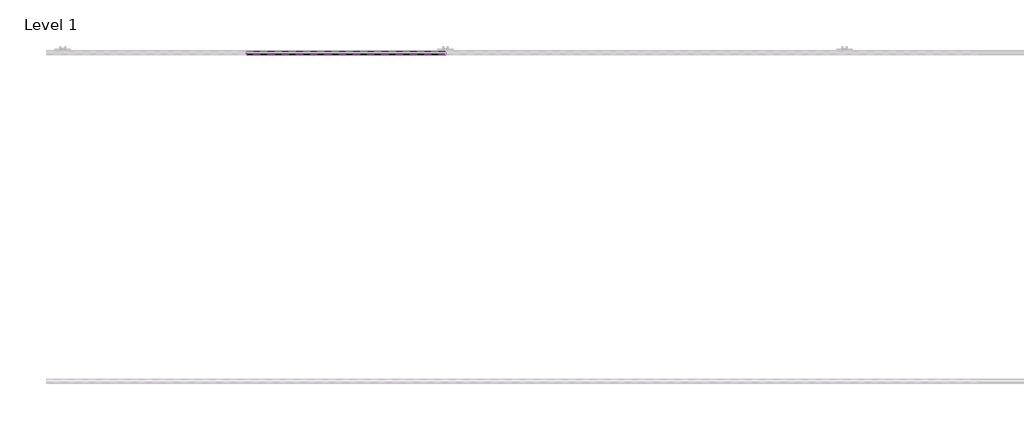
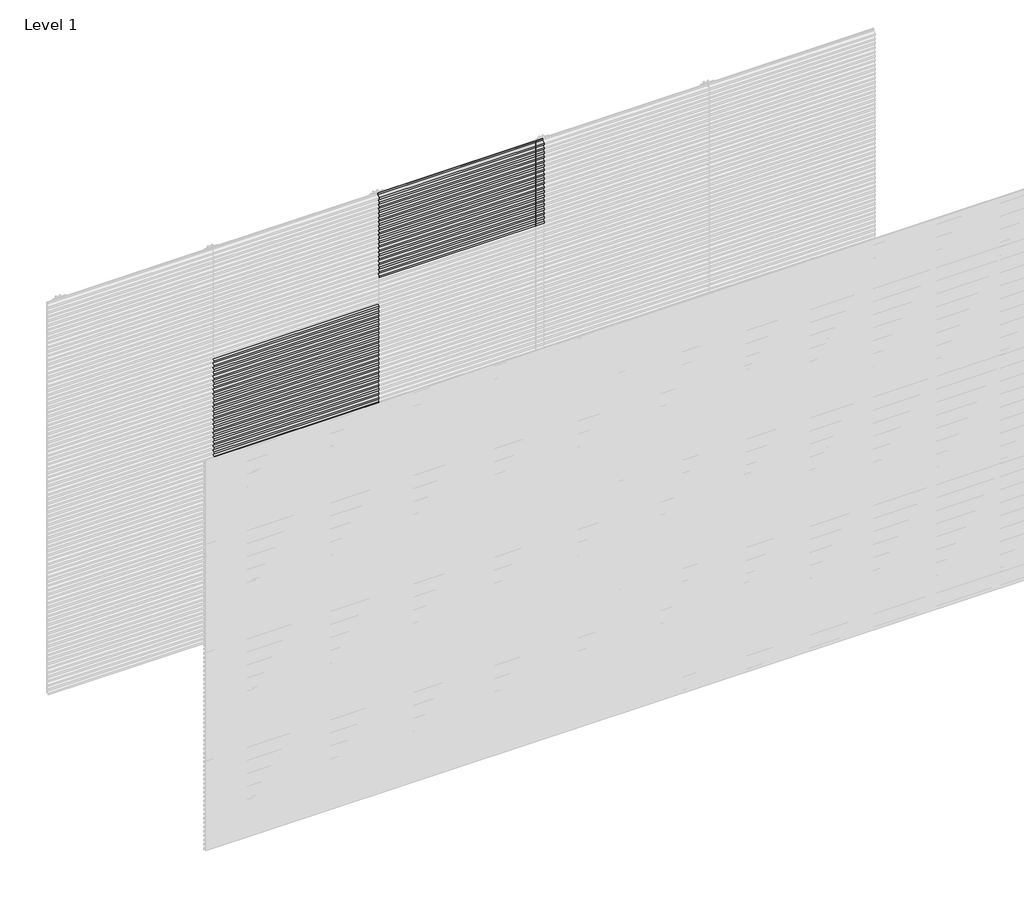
# One storey, part 14 of 507: 84 proxies.
"""IFC4 building model written with IfcOpenShell, lengths in millimetres."""

from ifc_helpers import new_model, si_unit, frame, origin, place, context, project, spatial, polyline, outline, extrude, element, save

model = new_model("IFC4")

# Units and contexts
model_context = context("Model", 3, world=origin())
ifc_project = project(units=[si_unit("LENGTHUNIT", "METRE", prefix="MILLI")], contexts=[model_context])

# Site, building, storey
site = spatial("IfcSite", under=ifc_project)
building = spatial("IfcBuilding", under=site)
storey = spatial("IfcBuildingStorey", under=building, Name="Level 1", Elevation=0.0)

# Proxies
placement = place(None, origin())
element("IfcBuildingElementProxy", 1, Name="Wall Sweeps", at=placement, inside=storey, context=model_context, shape_type="SweptSolid", body=[
    extrude(outline(polyline([(6962.6270068, 2140.5), (6981.7770068, 2151.5562577), (6981.7770068, 2164.5), (6983.0270068, 2164.5), (6983.0270068, 2150.8345698), (6963.8770068, 2139.7782281), (6963.8770068, 2127.7216933), (6962.6270068, 2127.0), (6962.6270068, 2140.5)])), frame((46166.6208099, 0.0, 0.0), z_axis=(1.0, 0.0, 0.0), x_axis=(0.0, 1.0, 0.0)), (0.0, 0.0, 1.0), 1199.9999999),
])
element("IfcBuildingElementProxy", 2, Name="Wall Sweeps", at=placement, inside=storey, context=model_context, shape_type="SweptSolid", body=[
    extrude(outline(polyline([(6962.6270068, 2107.2), (6981.7770068, 2118.2562577), (6981.7770068, 2131.2), (6983.0270068, 2131.2), (6983.0270068, 2117.5345698), (6963.8770068, 2106.4782281), (6963.8770068, 2094.4216933), (6962.6270068, 2093.7), (6962.6270068, 2107.2)])), frame((46166.6208099, 0.0, 0.0), z_axis=(1.0, 0.0, 0.0), x_axis=(0.0, 1.0, 0.0)), (0.0, 0.0, 1.0), 1199.9999999),
])
element("IfcBuildingElementProxy", 3, Name="Wall Sweeps", at=placement, inside=storey, context=model_context, shape_type="SweptSolid", body=[
    extrude(outline(polyline([(6962.6270068, 2073.9), (6981.7770068, 2084.9562577), (6981.7770068, 2097.9), (6983.0270068, 2097.9), (6983.0270068, 2084.2345698), (6963.8770068, 2073.1782281), (6963.8770068, 2061.1216933), (6962.6270068, 2060.4), (6962.6270068, 2073.9)])), frame((46166.6208099, 0.0, 0.0), z_axis=(1.0, 0.0, 0.0), x_axis=(0.0, 1.0, 0.0)), (0.0, 0.0, 1.0), 1199.9999999),
])
element("IfcBuildingElementProxy", 4, Name="Wall Sweeps", at=placement, inside=storey, context=model_context, shape_type="SweptSolid", body=[
    extrude(outline(polyline([(6962.6270068, 2040.6), (6981.7770068, 2051.6562577), (6981.7770068, 2064.6), (6983.0270068, 2064.6), (6983.0270068, 2050.9345698), (6963.8770068, 2039.8782281), (6963.8770068, 2027.8216933), (6962.6270068, 2027.1), (6962.6270068, 2040.6)])), frame((46166.6208099, 0.0, 0.0), z_axis=(1.0, 0.0, 0.0), x_axis=(0.0, 1.0, 0.0)), (0.0, 0.0, 1.0), 1199.9999999),
])
element("IfcBuildingElementProxy", 5, Name="Wall Sweeps", at=placement, inside=storey, context=model_context, shape_type="SweptSolid", body=[
    extrude(outline(polyline([(6962.6270068, 2007.3), (6981.7770068, 2018.3562577), (6981.7770068, 2031.3), (6983.0270068, 2031.3), (6983.0270068, 2017.6345698), (6963.8770068, 2006.5782281), (6963.8770068, 1994.5216933), (6962.6270068, 1993.8), (6962.6270068, 2007.3)])), frame((46166.6208099, 0.0, 0.0), z_axis=(1.0, 0.0, 0.0), x_axis=(0.0, 1.0, 0.0)), (0.0, 0.0, 1.0), 1199.9999999),
])
element("IfcBuildingElementProxy", 6, Name="Wall Sweeps", at=placement, inside=storey, context=model_context, shape_type="SweptSolid", body=[
    extrude(outline(polyline([(6962.6270068, 1974.0), (6981.7770068, 1985.0562577), (6981.7770068, 1998.0), (6983.0270068, 1998.0), (6983.0270068, 1984.3345698), (6963.8770068, 1973.2782281), (6963.8770068, 1961.2216933), (6962.6270068, 1960.5), (6962.6270068, 1974.0)])), frame((46166.6208099, 0.0, 0.0), z_axis=(1.0, 0.0, 0.0), x_axis=(0.0, 1.0, 0.0)), (0.0, 0.0, 1.0), 1199.9999999),
])
element("IfcBuildingElementProxy", 7, Name="Wall Sweeps", at=placement, inside=storey, context=model_context, shape_type="SweptSolid", body=[
    extrude(outline(polyline([(6962.6270068, 1940.7), (6981.7770068, 1951.7562577), (6981.7770068, 1964.7), (6983.0270068, 1964.7), (6983.0270068, 1951.0345698), (6963.8770068, 1939.9782281), (6963.8770068, 1927.9216933), (6962.6270068, 1927.2), (6962.6270068, 1940.7)])), frame((46166.6208099, 0.0, 0.0), z_axis=(1.0, 0.0, 0.0), x_axis=(0.0, 1.0, 0.0)), (0.0, 0.0, 1.0), 1199.9999999),
])
element("IfcBuildingElementProxy", 8, Name="Wall Sweeps", at=placement, inside=storey, context=model_context, shape_type="SweptSolid", body=[
    extrude(outline(polyline([(6962.6270068, 1907.4), (6981.7770068, 1918.4562577), (6981.7770068, 1931.4), (6983.0270068, 1931.4), (6983.0270068, 1917.7345698), (6963.8770068, 1906.6782281), (6963.8770068, 1894.6216933), (6962.6270068, 1893.9), (6962.6270068, 1907.4)])), frame((46166.6208099, 0.0, 0.0), z_axis=(1.0, 0.0, 0.0), x_axis=(0.0, 1.0, 0.0)), (0.0, 0.0, 1.0), 1199.9999999),
])
element("IfcBuildingElementProxy", 9, Name="Wall Sweeps", at=placement, inside=storey, context=model_context, shape_type="SweptSolid", body=[
    extrude(outline(polyline([(6962.6270068, 1874.1), (6981.7770068, 1885.1562577), (6981.7770068, 1898.1), (6983.0270068, 1898.1), (6983.0270068, 1884.4345698), (6963.8770068, 1873.3782281), (6963.8770068, 1861.3216933), (6962.6270068, 1860.6), (6962.6270068, 1874.1)])), frame((46166.6208099, 0.0, 0.0), z_axis=(1.0, 0.0, 0.0), x_axis=(0.0, 1.0, 0.0)), (0.0, 0.0, 1.0), 1199.9999999),
])
element("IfcBuildingElementProxy", 10, Name="Wall Sweeps", at=placement, inside=storey, context=model_context, shape_type="SweptSolid", body=[
    extrude(outline(polyline([(6962.6270068, 1840.8), (6981.7770068, 1851.8562577), (6981.7770068, 1864.8), (6983.0270068, 1864.8), (6983.0270068, 1851.1345698), (6963.8770068, 1840.0782281), (6963.8770068, 1828.0216933), (6962.6270068, 1827.3), (6962.6270068, 1840.8)])), frame((46166.6208099, 0.0, 0.0), z_axis=(1.0, 0.0, 0.0), x_axis=(0.0, 1.0, 0.0)), (0.0, 0.0, 1.0), 1199.9999999),
])
element("IfcBuildingElementProxy", 11, Name="Wall Sweeps", at=placement, inside=storey, context=model_context, shape_type="SweptSolid", body=[
    extrude(outline(polyline([(6962.6270068, 1807.5), (6981.7770068, 1818.5562577), (6981.7770068, 1831.5), (6983.0270068, 1831.5), (6983.0270068, 1817.8345698), (6963.8770068, 1806.7782281), (6963.8770068, 1794.7216933), (6962.6270068, 1794.0), (6962.6270068, 1807.5)])), frame((46166.6208099, 0.0, 0.0), z_axis=(1.0, 0.0, 0.0), x_axis=(0.0, 1.0, 0.0)), (0.0, 0.0, 1.0), 1199.9999999),
])
element("IfcBuildingElementProxy", 12, Name="Wall Sweeps", at=placement, inside=storey, context=model_context, shape_type="SweptSolid", body=[
    extrude(outline(polyline([(6962.6270068, 1774.2), (6981.7770068, 1785.2562577), (6981.7770068, 1798.2), (6983.0270068, 1798.2), (6983.0270068, 1784.5345698), (6963.8770068, 1773.4782281), (6963.8770068, 1761.4216933), (6962.6270068, 1760.7), (6962.6270068, 1774.2)])), frame((46166.6208099, 0.0, 0.0), z_axis=(1.0, 0.0, 0.0), x_axis=(0.0, 1.0, 0.0)), (0.0, 0.0, 1.0), 1199.9999999),
])
element("IfcBuildingElementProxy", 13, Name="Wall Sweeps", at=placement, inside=storey, context=model_context, shape_type="SweptSolid", body=[
    extrude(outline(polyline([(6962.6270068, 1740.9), (6981.7770068, 1751.9562577), (6981.7770068, 1764.9), (6983.0270068, 1764.9), (6983.0270068, 1751.2345698), (6963.8770068, 1740.1782281), (6963.8770068, 1728.1216933), (6962.6270068, 1727.4), (6962.6270068, 1740.9)])), frame((46166.6208099, 0.0, 0.0), z_axis=(1.0, 0.0, 0.0), x_axis=(0.0, 1.0, 0.0)), (0.0, 0.0, 1.0), 1199.9999999),
])
element("IfcBuildingElementProxy", 14, Name="Wall Sweeps", at=placement, inside=storey, context=model_context, shape_type="SweptSolid", body=[
    extrude(outline(polyline([(6962.6270068, 1707.6), (6981.7770068, 1718.6562577), (6981.7770068, 1731.6), (6983.0270068, 1731.6), (6983.0270068, 1717.9345698), (6963.8770068, 1706.8782281), (6963.8770068, 1694.8216933), (6962.6270068, 1694.1), (6962.6270068, 1707.6)])), frame((46166.6208099, 0.0, 0.0), z_axis=(1.0, 0.0, 0.0), x_axis=(0.0, 1.0, 0.0)), (0.0, 0.0, 1.0), 1199.9999999),
])
element("IfcBuildingElementProxy", 15, Name="Wall Sweeps", at=placement, inside=storey, context=model_context, shape_type="SweptSolid", body=[
    extrude(outline(polyline([(6962.6270068, 1674.3), (6981.7770068, 1685.3562577), (6981.7770068, 1698.3), (6983.0270068, 1698.3), (6983.0270068, 1684.6345698), (6963.8770068, 1673.5782281), (6963.8770068, 1661.5216933), (6962.6270068, 1660.8), (6962.6270068, 1674.3)])), frame((46166.6208099, 0.0, 0.0), z_axis=(1.0, 0.0, 0.0), x_axis=(0.0, 1.0, 0.0)), (0.0, 0.0, 1.0), 1199.9999999),
])
element("IfcBuildingElementProxy", 16, Name="Wall Sweeps", at=placement, inside=storey, context=model_context, shape_type="SweptSolid", body=[
    extrude(outline(polyline([(6962.6270068, 1641.0), (6981.7770068, 1652.0562577), (6981.7770068, 1665.0), (6983.0270068, 1665.0), (6983.0270068, 1651.3345698), (6963.8770068, 1640.2782281), (6963.8770068, 1628.2216933), (6962.6270068, 1627.5), (6962.6270068, 1641.0)])), frame((46166.6208099, 0.0, 0.0), z_axis=(1.0, 0.0, 0.0), x_axis=(0.0, 1.0, 0.0)), (0.0, 0.0, 1.0), 1199.9999999),
])
element("IfcBuildingElementProxy", 17, Name="Wall Sweeps", at=placement, inside=storey, context=model_context, shape_type="SweptSolid", body=[
    extrude(outline(polyline([(6962.6270068, 1607.7), (6981.7770068, 1618.7562577), (6981.7770068, 1631.7), (6983.0270068, 1631.7), (6983.0270068, 1618.0345698), (6963.8770068, 1606.9782281), (6963.8770068, 1594.9216933), (6962.6270068, 1594.2), (6962.6270068, 1607.7)])), frame((46166.6208099, 0.0, 0.0), z_axis=(1.0, 0.0, 0.0), x_axis=(0.0, 1.0, 0.0)), (0.0, 0.0, 1.0), 1199.9999999),
])
element("IfcBuildingElementProxy", 18, Name="Wall Sweeps", at=placement, inside=storey, context=model_context, shape_type="SweptSolid", body=[
    extrude(outline(polyline([(6962.6270068, 1574.4), (6981.7770068, 1585.4562577), (6981.7770068, 1598.4), (6983.0270068, 1598.4), (6983.0270068, 1584.7345698), (6963.8770068, 1573.6782281), (6963.8770068, 1561.6216933), (6962.6270068, 1560.9), (6962.6270068, 1574.4)])), frame((46166.6208099, 0.0, 0.0), z_axis=(1.0, 0.0, 0.0), x_axis=(0.0, 1.0, 0.0)), (0.0, 0.0, 1.0), 1199.9999999),
])
element("IfcBuildingElementProxy", 19, Name="Wall Sweeps", at=placement, inside=storey, context=model_context, shape_type="SweptSolid", body=[
    extrude(outline(polyline([(6962.6270068, 1541.1), (6981.7770068, 1552.1562577), (6981.7770068, 1565.1), (6983.0270068, 1565.1), (6983.0270068, 1551.4345698), (6963.8770068, 1540.3782281), (6963.8770068, 1528.3216933), (6962.6270068, 1527.6), (6962.6270068, 1541.1)])), frame((46166.6208099, 0.0, 0.0), z_axis=(1.0, 0.0, 0.0), x_axis=(0.0, 1.0, 0.0)), (0.0, 0.0, 1.0), 1199.9999999),
])
element("IfcBuildingElementProxy", 20, Name="Wall Sweeps", at=placement, inside=storey, context=model_context, shape_type="SweptSolid", body=[
    extrude(outline(polyline([(6962.6270068, 1507.8), (6981.7770068, 1518.8562577), (6981.7770068, 1531.8), (6983.0270068, 1531.8), (6983.0270068, 1518.1345698), (6963.8770068, 1507.0782281), (6963.8770068, 1495.0216933), (6962.6270068, 1494.3), (6962.6270068, 1507.8)])), frame((46166.6208099, 0.0, 0.0), z_axis=(1.0, 0.0, 0.0), x_axis=(0.0, 1.0, 0.0)), (0.0, 0.0, 1.0), 1199.9999999),
])
element("IfcBuildingElementProxy", 21, Name="Wall Sweeps", at=placement, inside=storey, context=model_context, shape_type="SweptSolid", body=[
    extrude(outline(polyline([(6962.6270068, 1474.5), (6981.7770068, 1485.5562577), (6981.7770068, 1498.5), (6983.0270068, 1498.5), (6983.0270068, 1484.8345698), (6963.8770068, 1473.7782281), (6963.8770068, 1461.7216933), (6962.6270068, 1461.0), (6962.6270068, 1474.5)])), frame((46166.6208099, 0.0, 0.0), z_axis=(1.0, 0.0, 0.0), x_axis=(0.0, 1.0, 0.0)), (0.0, 0.0, 1.0), 1199.9999999),
])
element("IfcBuildingElementProxy", 22, Name="Wall Sweeps", at=placement, inside=storey, context=model_context, shape_type="SweptSolid", body=[
    extrude(outline(polyline([(6962.6270068, 1441.2), (6981.7770068, 1452.2562577), (6981.7770068, 1465.2), (6983.0270068, 1465.2), (6983.0270068, 1451.5345698), (6963.8770068, 1440.4782281), (6963.8770068, 1428.4216933), (6962.6270068, 1427.7), (6962.6270068, 1441.2)])), frame((46166.6208099, 0.0, 0.0), z_axis=(1.0, 0.0, 0.0), x_axis=(0.0, 1.0, 0.0)), (0.0, 0.0, 1.0), 1199.9999999),
])
element("IfcBuildingElementProxy", 23, Name="Wall Sweeps", at=placement, inside=storey, context=model_context, shape_type="SweptSolid", body=[
    extrude(outline(polyline([(6962.6270068, 1407.9), (6981.7770068, 1418.9562577), (6981.7770068, 1431.9), (6983.0270068, 1431.9), (6983.0270068, 1418.2345698), (6963.8770068, 1407.1782281), (6963.8770068, 1395.1216933), (6962.6270068, 1394.4), (6962.6270068, 1407.9)])), frame((46166.6208099, 0.0, 0.0), z_axis=(1.0, 0.0, 0.0), x_axis=(0.0, 1.0, 0.0)), (0.0, 0.0, 1.0), 1199.9999999),
])
element("IfcBuildingElementProxy", 24, Name="Wall Sweeps", at=placement, inside=storey, context=model_context, shape_type="SweptSolid", body=[
    extrude(outline(polyline([(6962.6270068, 1374.6), (6981.7770068, 1385.6562577), (6981.7770068, 1398.6), (6983.0270068, 1398.6), (6983.0270068, 1384.9345698), (6963.8770068, 1373.8782281), (6963.8770068, 1361.8216933), (6962.6270068, 1361.1), (6962.6270068, 1374.6)])), frame((46166.6208099, 0.0, 0.0), z_axis=(1.0, 0.0, 0.0), x_axis=(0.0, 1.0, 0.0)), (0.0, 0.0, 1.0), 1199.9999999),
])
element("IfcBuildingElementProxy", 25, Name="Wall Sweeps", at=placement, inside=storey, context=model_context, shape_type="SweptSolid", body=[
    extrude(outline(polyline([(6962.6270068, 1341.3), (6981.7770068, 1352.3562577), (6981.7770068, 1365.3), (6983.0270068, 1365.3), (6983.0270068, 1351.6345698), (6963.8770068, 1340.5782281), (6963.8770068, 1328.5216933), (6962.6270068, 1327.8), (6962.6270068, 1341.3)])), frame((46166.6208099, 0.0, 0.0), z_axis=(1.0, 0.0, 0.0), x_axis=(0.0, 1.0, 0.0)), (0.0, 0.0, 1.0), 1199.9999999),
])
element("IfcBuildingElementProxy", 26, Name="Wall Sweeps", at=placement, inside=storey, context=model_context, shape_type="SweptSolid", body=[
    extrude(outline(polyline([(6962.6270068, 1308.0), (6981.7770068, 1319.0562577), (6981.7770068, 1332.0), (6983.0270068, 1332.0), (6983.0270068, 1318.3345698), (6963.8770068, 1307.2782281), (6963.8770068, 1295.2216933), (6962.6270068, 1294.5), (6962.6270068, 1308.0)])), frame((46166.6208099, 0.0, 0.0), z_axis=(1.0, 0.0, 0.0), x_axis=(0.0, 1.0, 0.0)), (0.0, 0.0, 1.0), 1199.9999999),
])
element("IfcBuildingElementProxy", 27, Name="Wall Sweeps", at=placement, inside=storey, context=model_context, shape_type="SweptSolid", body=[
    extrude(outline(polyline([(6962.6270068, 1274.7), (6981.7770068, 1285.7562577), (6981.7770068, 1298.7), (6983.0270068, 1298.7), (6983.0270068, 1285.0345698), (6963.8770068, 1273.9782281), (6963.8770068, 1261.9216933), (6962.6270068, 1261.2), (6962.6270068, 1274.7)])), frame((46166.6208099, 0.0, 0.0), z_axis=(1.0, 0.0, 0.0), x_axis=(0.0, 1.0, 0.0)), (0.0, 0.0, 1.0), 1199.9999999),
])
element("IfcBuildingElementProxy", 28, Name="Wall Sweeps", at=placement, inside=storey, context=model_context, shape_type="SweptSolid", body=[
    extrude(outline(polyline([(6962.6270068, 1241.4), (6981.7770068, 1252.4562577), (6981.7770068, 1265.4), (6983.0270068, 1265.4), (6983.0270068, 1251.7345698), (6963.8770068, 1240.6782281), (6963.8770068, 1228.6216933), (6962.6270068, 1227.9), (6962.6270068, 1241.4)])), frame((46166.6208099, 0.0, 0.0), z_axis=(1.0, 0.0, 0.0), x_axis=(0.0, 1.0, 0.0)), (0.0, 0.0, 1.0), 1199.9999999),
])
element("IfcBuildingElementProxy", 29, Name="Wall Sweeps", at=placement, inside=storey, context=model_context, shape_type="SweptSolid", body=[
    extrude(outline(polyline([(6962.6270068, 1208.1), (6981.7770068, 1219.1562577), (6981.7770068, 1232.1), (6983.0270068, 1232.1), (6983.0270068, 1218.4345698), (6963.8770068, 1207.3782281), (6963.8770068, 1195.3216933), (6962.6270068, 1194.6), (6962.6270068, 1208.1)])), frame((46166.6208099, 0.0, 0.0), z_axis=(1.0, 0.0, 0.0), x_axis=(0.0, 1.0, 0.0)), (0.0, 0.0, 1.0), 1199.9999999),
])
element("IfcBuildingElementProxy", 30, Name="Wall Sweeps", at=placement, inside=storey, context=model_context, shape_type="SweptSolid", body=[
    extrude(outline(polyline([(6962.6270068, 1174.8), (6981.7770068, 1185.8562577), (6981.7770068, 1198.8), (6983.0270068, 1198.8), (6983.0270068, 1185.1345698), (6963.8770068, 1174.0782281), (6963.8770068, 1162.0216933), (6962.6270068, 1161.3), (6962.6270068, 1174.8)])), frame((46166.6208099, 0.0, 0.0), z_axis=(1.0, 0.0, 0.0), x_axis=(0.0, 1.0, 0.0)), (0.0, 0.0, 1.0), 1199.9999999),
])
element("IfcBuildingElementProxy", 31, Name="Wall Sweeps", at=placement, inside=storey, context=model_context, shape_type="SweptSolid", body=[
    extrude(outline(polyline([(6962.6270068, 1141.5), (6981.7770068, 1152.5562577), (6981.7770068, 1165.5), (6983.0270068, 1165.5), (6983.0270068, 1151.8345698), (6963.8770068, 1140.7782281), (6963.8770068, 1128.7216933), (6962.6270068, 1128.0), (6962.6270068, 1141.5)])), frame((46166.6208099, 0.0, 0.0), z_axis=(1.0, 0.0, 0.0), x_axis=(0.0, 1.0, 0.0)), (0.0, 0.0, 1.0), 1199.9999999),
])
element("IfcBuildingElementProxy", 32, Name="Wall Sweeps", at=placement, inside=storey, context=model_context, shape_type="SweptSolid", body=[
    extrude(outline(polyline([(6962.6270068, 1108.2), (6981.7770068, 1119.2562577), (6981.7770068, 1132.2), (6983.0270068, 1132.2), (6983.0270068, 1118.5345698), (6963.8770068, 1107.4782281), (6963.8770068, 1095.4216933), (6962.6270068, 1094.7), (6962.6270068, 1108.2)])), frame((46166.6208099, 0.0, 0.0), z_axis=(1.0, 0.0, 0.0), x_axis=(0.0, 1.0, 0.0)), (0.0, 0.0, 1.0), 1199.9999999),
])
element("IfcBuildingElementProxy", 33, Name="Wall Sweeps", at=placement, inside=storey, context=model_context, shape_type="SweptSolid", body=[
    extrude(outline(polyline([(6962.6270068, 1074.9), (6981.7770068, 1085.9562577), (6981.7770068, 1098.9), (6983.0270068, 1098.9), (6983.0270068, 1085.2345698), (6963.8770068, 1074.1782281), (6963.8770068, 1062.1216933), (6962.6270068, 1061.4), (6962.6270068, 1074.9)])), frame((46166.6208099, 0.0, 0.0), z_axis=(1.0, 0.0, 0.0), x_axis=(0.0, 1.0, 0.0)), (0.0, 0.0, 1.0), 1199.9999999),
])
element("IfcBuildingElementProxy", 34, Name="Wall Sweeps", at=placement, inside=storey, context=model_context, shape_type="SweptSolid", body=[
    extrude(outline(polyline([(6962.6270068, 1041.6), (6981.7770068, 1052.6562577), (6981.7770068, 1065.6), (6983.0270068, 1065.6), (6983.0270068, 1051.9345698), (6963.8770068, 1040.8782281), (6963.8770068, 1028.8216933), (6962.6270068, 1028.1), (6962.6270068, 1041.6)])), frame((46166.6208099, 0.0, 0.0), z_axis=(1.0, 0.0, 0.0), x_axis=(0.0, 1.0, 0.0)), (0.0, 0.0, 1.0), 1199.9999999),
])
element("IfcBuildingElementProxy", 35, Name="Wall Sweeps", at=placement, inside=storey, context=model_context, shape_type="SweptSolid", body=[
    extrude(outline(polyline([(6962.6270068, 1008.3), (6981.7770068, 1019.3562577), (6981.7770068, 1032.3), (6983.0270068, 1032.3), (6983.0270068, 1018.6345698), (6963.8770068, 1007.5782281), (6963.8770068, 995.5216933), (6962.6270068, 994.8), (6962.6270068, 1008.3)])), frame((46166.6208099, 0.0, 0.0), z_axis=(1.0, 0.0, 0.0), x_axis=(0.0, 1.0, 0.0)), (0.0, 0.0, 1.0), 1199.9999999),
])
element("IfcBuildingElementProxy", 36, Name="Wall Sweeps", at=placement, inside=storey, context=model_context, shape_type="SweptSolid", body=[
    extrude(outline(polyline([(6962.6270068, 975.0), (6981.7770068, 986.0562577), (6981.7770068, 999.0), (6983.0270068, 999.0), (6983.0270068, 985.3345698), (6963.8770068, 974.2782281), (6963.8770068, 962.2216933), (6962.6270068, 961.5), (6962.6270068, 975.0)])), frame((46166.6208099, 0.0, 0.0), z_axis=(1.0, 0.0, 0.0), x_axis=(0.0, 1.0, 0.0)), (0.0, 0.0, 1.0), 1199.9999999),
])
element("IfcBuildingElementProxy", 37, Name="Wall Sweeps", at=placement, inside=storey, context=model_context, shape_type="SweptSolid", body=[
    extrude(outline(polyline([(6962.6270068, 941.7), (6981.7770068, 952.7562577), (6981.7770068, 965.7), (6983.0270068, 965.7), (6983.0270068, 952.0345698), (6963.8770068, 940.9782281), (6963.8770068, 928.9216933), (6962.6270068, 928.2), (6962.6270068, 941.7)])), frame((46166.6208099, 0.0, 0.0), z_axis=(1.0, 0.0, 0.0), x_axis=(0.0, 1.0, 0.0)), (0.0, 0.0, 1.0), 1199.9999999),
])
element("IfcBuildingElementProxy", 38, Name="Wall Sweeps", at=placement, inside=storey, context=model_context, shape_type="SweptSolid", body=[
    extrude(outline(polyline([(6962.6270068, 908.4), (6981.7770068, 919.4562577), (6981.7770068, 932.4), (6983.0270068, 932.4), (6983.0270068, 918.7345698), (6963.8770068, 907.6782281), (6963.8770068, 895.6216933), (6962.6270068, 894.9), (6962.6270068, 908.4)])), frame((46166.6208099, 0.0, 0.0), z_axis=(1.0, 0.0, 0.0), x_axis=(0.0, 1.0, 0.0)), (0.0, 0.0, 1.0), 1199.9999999),
])
element("IfcBuildingElementProxy", 39, Name="Wall Sweeps", at=placement, inside=storey, context=model_context, shape_type="SweptSolid", body=[
    extrude(outline(polyline([(6962.6270068, 875.1), (6981.7770068, 886.1562577), (6981.7770068, 899.1), (6983.0270068, 899.1), (6983.0270068, 885.4345698), (6963.8770068, 874.3782281), (6963.8770068, 862.3216933), (6962.6270068, 861.6), (6962.6270068, 875.1)])), frame((46166.6208099, 0.0, 0.0), z_axis=(1.0, 0.0, 0.0), x_axis=(0.0, 1.0, 0.0)), (0.0, 0.0, 1.0), 1199.9999999),
])
element("IfcBuildingElementProxy", 40, Name="Wall Sweeps", at=placement, inside=storey, context=model_context, shape_type="SweptSolid", body=[
    extrude(outline(polyline([(6962.6270068, 841.8), (6981.7770068, 852.8562577), (6981.7770068, 865.8), (6983.0270068, 865.8), (6983.0270068, 852.1345698), (6963.8770068, 841.0782281), (6963.8770068, 829.0216933), (6962.6270068, 828.3), (6962.6270068, 841.8)])), frame((46166.6208099, 0.0, 0.0), z_axis=(1.0, 0.0, 0.0), x_axis=(0.0, 1.0, 0.0)), (0.0, 0.0, 1.0), 1199.9999999),
])
element("IfcBuildingElementProxy", 41, Name="Wall Sweeps", at=placement, inside=storey, context=model_context, shape_type="SweptSolid", body=[
    extrude(outline(polyline([(6962.6270068, 808.5), (6981.7770068, 819.5562577), (6981.7770068, 832.5), (6983.0270068, 832.5), (6983.0270068, 818.8345698), (6963.8770068, 807.7782281), (6963.8770068, 795.7216933), (6962.6270068, 795.0), (6962.6270068, 808.5)])), frame((46166.6208099, 0.0, 0.0), z_axis=(1.0, 0.0, 0.0), x_axis=(0.0, 1.0, 0.0)), (0.0, 0.0, 1.0), 1199.9999999),
])
element("IfcBuildingElementProxy", 42, Name="Wall Sweeps", at=placement, inside=storey, context=model_context, shape_type="SweptSolid", body=[
    extrude(outline(polyline([(6962.6270068, 775.2), (6981.7770068, 786.2562577), (6981.7770068, 799.2), (6983.0270068, 799.2), (6983.0270068, 785.5345698), (6963.8770068, 774.4782281), (6963.8770068, 762.4216933), (6962.6270068, 761.7), (6962.6270068, 775.2)])), frame((46166.6208099, 0.0, 0.0), z_axis=(1.0, 0.0, 0.0), x_axis=(0.0, 1.0, 0.0)), (0.0, 0.0, 1.0), 1199.9999999),
])
element("IfcBuildingElementProxy", 43, Name="Wall Sweeps", at=placement, inside=storey, context=model_context, shape_type="SweptSolid", body=[
    extrude(outline(polyline([(6962.6270068, 741.9), (6981.7770068, 752.9562577), (6981.7770068, 765.9), (6983.0270068, 765.9), (6983.0270068, 752.2345698), (6963.8770068, 741.1782281), (6963.8770068, 729.1216933), (6962.6270068, 728.4), (6962.6270068, 741.9)])), frame((46166.6208099, 0.0, 0.0), z_axis=(1.0, 0.0, 0.0), x_axis=(0.0, 1.0, 0.0)), (0.0, 0.0, 1.0), 1199.9999999),
])
element("IfcBuildingElementProxy", 44, Name="Wall Sweeps", at=placement, inside=storey, context=model_context, shape_type="SweptSolid", body=[
    extrude(outline(polyline([(6962.6270068, 708.6), (6981.7770068, 719.6562577), (6981.7770068, 732.6), (6983.0270068, 732.6), (6983.0270068, 718.9345698), (6963.8770068, 707.8782281), (6963.8770068, 695.8216933), (6962.6270068, 695.1), (6962.6270068, 708.6)])), frame((46166.6208099, 0.0, 0.0), z_axis=(1.0, 0.0, 0.0), x_axis=(0.0, 1.0, 0.0)), (0.0, 0.0, 1.0), 1199.9999999),
])
element("IfcBuildingElementProxy", 45, Name="Wall Sweeps", at=placement, inside=storey, context=model_context, shape_type="SweptSolid", body=[
    extrude(outline(polyline([(6962.6270068, 675.3), (6981.7770068, 686.3562577), (6981.7770068, 699.3), (6983.0270068, 699.3), (6983.0270068, 685.6345698), (6963.8770068, 674.5782281), (6963.8770068, 662.5216933), (6962.6270068, 661.8), (6962.6270068, 675.3)])), frame((46166.6208099, 0.0, 0.0), z_axis=(1.0, 0.0, 0.0), x_axis=(0.0, 1.0, 0.0)), (0.0, 0.0, 1.0), 1199.9999999),
])
element("IfcBuildingElementProxy", 46, Name="Wall Sweeps", at=placement, inside=storey, context=model_context, shape_type="SweptSolid", body=[
    extrude(outline(polyline([(6962.6270068, 642.0), (6981.7770068, 653.0562577), (6981.7770068, 666.0), (6983.0270068, 666.0), (6983.0270068, 652.3345698), (6963.8770068, 641.2782281), (6963.8770068, 629.2216933), (6962.6270068, 628.5), (6962.6270068, 642.0)])), frame((46166.6208099, 0.0, 0.0), z_axis=(1.0, 0.0, 0.0), x_axis=(0.0, 1.0, 0.0)), (0.0, 0.0, 1.0), 1199.9999999),
])
element("IfcBuildingElementProxy", 47, Name="Wall Sweeps", at=placement, inside=storey, context=model_context, shape_type="SweptSolid", body=[
    extrude(outline(polyline([(6962.6270068, 608.7), (6981.7770068, 619.7562577), (6981.7770068, 632.7), (6983.0270068, 632.7), (6983.0270068, 619.0345698), (6963.8770068, 607.9782281), (6963.8770068, 595.9216933), (6962.6270068, 595.2), (6962.6270068, 608.7)])), frame((46166.6208099, 0.0, 0.0), z_axis=(1.0, 0.0, 0.0), x_axis=(0.0, 1.0, 0.0)), (0.0, 0.0, 1.0), 1199.9999999),
])
element("IfcBuildingElementProxy", 48, Name="Wall Sweeps", at=placement, inside=storey, context=model_context, shape_type="SweptSolid", body=[
    extrude(outline(polyline([(6962.6270068, 575.4), (6981.7770068, 586.4562577), (6981.7770068, 599.4), (6983.0270068, 599.4), (6983.0270068, 585.7345698), (6963.8770068, 574.6782281), (6963.8770068, 562.6216933), (6962.6270068, 561.9), (6962.6270068, 575.4)])), frame((46166.6208099, 0.0, 0.0), z_axis=(1.0, 0.0, 0.0), x_axis=(0.0, 1.0, 0.0)), (0.0, 0.0, 1.0), 1199.9999999),
])
element("IfcBuildingElementProxy", 49, Name="Wall Sweeps", at=placement, inside=storey, context=model_context, shape_type="SweptSolid", body=[
    extrude(outline(polyline([(6962.6270068, 542.1), (6981.7770068, 553.1562577), (6981.7770068, 566.1), (6983.0270068, 566.1), (6983.0270068, 552.4345698), (6963.8770068, 541.3782281), (6963.8770068, 529.3216933), (6962.6270068, 528.6), (6962.6270068, 542.1)])), frame((46166.6208099, 0.0, 0.0), z_axis=(1.0, 0.0, 0.0), x_axis=(0.0, 1.0, 0.0)), (0.0, 0.0, 1.0), 1199.9999999),
])
element("IfcBuildingElementProxy", 50, Name="Wall Sweeps", at=placement, inside=storey, context=model_context, shape_type="SweptSolid", body=[
    extrude(outline(polyline([(6962.6270068, 508.8), (6981.7770068, 519.8562577), (6981.7770068, 532.8), (6983.0270068, 532.8), (6983.0270068, 519.1345698), (6963.8770068, 508.0782281), (6963.8770068, 496.0216933), (6962.6270068, 495.3), (6962.6270068, 508.8)])), frame((46166.6208099, 0.0, 0.0), z_axis=(1.0, 0.0, 0.0), x_axis=(0.0, 1.0, 0.0)), (0.0, 0.0, 1.0), 1199.9999999),
])
element("IfcBuildingElementProxy", 51, Name="Wall Sweeps", at=placement, inside=storey, context=model_context, shape_type="SweptSolid", body=[
    extrude(outline(polyline([(6962.6270068, 475.5), (6981.7770068, 486.5562577), (6981.7770068, 499.5), (6983.0270068, 499.5), (6983.0270068, 485.8345698), (6963.8770068, 474.7782281), (6963.8770068, 462.7216933), (6962.6270068, 462.0), (6962.6270068, 475.5)])), frame((46166.6208099, 0.0, 0.0), z_axis=(1.0, 0.0, 0.0), x_axis=(0.0, 1.0, 0.0)), (0.0, 0.0, 1.0), 1199.9999999),
])
element("IfcBuildingElementProxy", 52, Name="Wall Sweeps", at=placement, inside=storey, context=model_context, shape_type="SweptSolid", body=[
    extrude(outline(polyline([(6962.6270068, 442.2), (6981.7770068, 453.2562577), (6981.7770068, 466.2), (6983.0270068, 466.2), (6983.0270068, 452.5345698), (6963.8770068, 441.4782281), (6963.8770068, 429.4216933), (6962.6270068, 428.7), (6962.6270068, 442.2)])), frame((46166.6208099, 0.0, 0.0), z_axis=(1.0, 0.0, 0.0), x_axis=(0.0, 1.0, 0.0)), (0.0, 0.0, 1.0), 1199.9999999),
])
element("IfcBuildingElementProxy", 53, Name="Wall Sweeps", at=placement, inside=storey, context=model_context, shape_type="SweptSolid", body=[
    extrude(outline(polyline([(6962.6270068, 408.9), (6981.7770068, 419.9562577), (6981.7770068, 432.9), (6983.0270068, 432.9), (6983.0270068, 419.2345698), (6963.8770068, 408.1782281), (6963.8770068, 396.1216933), (6962.6270068, 395.4), (6962.6270068, 408.9)])), frame((46166.6208099, 0.0, 0.0), z_axis=(1.0, 0.0, 0.0), x_axis=(0.0, 1.0, 0.0)), (0.0, 0.0, 1.0), 1199.9999999),
])
element("IfcBuildingElementProxy", 54, Name="Wall Sweeps", at=placement, inside=storey, context=model_context, shape_type="SweptSolid", body=[
    extrude(outline(polyline([(6962.6270068, 375.6), (6981.7770068, 386.6562577), (6981.7770068, 399.6), (6983.0270068, 399.6), (6983.0270068, 385.9345698), (6963.8770068, 374.8782281), (6963.8770068, 362.8216933), (6962.6270068, 362.1), (6962.6270068, 375.6)])), frame((46166.6208099, 0.0, 0.0), z_axis=(1.0, 0.0, 0.0), x_axis=(0.0, 1.0, 0.0)), (0.0, 0.0, 1.0), 1199.9999999),
])
element("IfcBuildingElementProxy", 55, Name="Wall Sweeps", at=placement, inside=storey, context=model_context, shape_type="SweptSolid", body=[
    extrude(outline(polyline([(6962.6270068, 342.3), (6981.7770068, 353.3562577), (6981.7770068, 366.3), (6983.0270068, 366.3), (6983.0270068, 352.6345698), (6963.8770068, 341.5782281), (6963.8770068, 329.5216933), (6962.6270068, 328.8), (6962.6270068, 342.3)])), frame((46166.6208099, 0.0, 0.0), z_axis=(1.0, 0.0, 0.0), x_axis=(0.0, 1.0, 0.0)), (0.0, 0.0, 1.0), 1199.9999999),
])
element("IfcBuildingElementProxy", 56, Name="Wall Sweeps", at=placement, inside=storey, context=model_context, shape_type="SweptSolid", body=[
    extrude(outline(polyline([(6962.6270068, 309.0), (6981.7770068, 320.0562577), (6981.7770068, 333.0), (6983.0270068, 333.0), (6983.0270068, 319.3345698), (6963.8770068, 308.2782281), (6963.8770068, 296.2216933), (6962.6270068, 295.5), (6962.6270068, 309.0)])), frame((46166.6208099, 0.0, 0.0), z_axis=(1.0, 0.0, 0.0), x_axis=(0.0, 1.0, 0.0)), (0.0, 0.0, 1.0), 1199.9999999),
])
element("IfcBuildingElementProxy", 57, Name="Wall Sweeps", at=placement, inside=storey, context=model_context, shape_type="SweptSolid", body=[
    extrude(outline(polyline([(6962.6270068, 275.7), (6981.7770068, 286.7562577), (6981.7770068, 299.7), (6983.0270068, 299.7), (6983.0270068, 286.0345698), (6963.8770068, 274.9782281), (6963.8770068, 262.9216933), (6962.6270068, 262.2), (6962.6270068, 275.7)])), frame((46166.6208099, 0.0, 0.0), z_axis=(1.0, 0.0, 0.0), x_axis=(0.0, 1.0, 0.0)), (0.0, 0.0, 1.0), 1199.9999999),
])
element("IfcBuildingElementProxy", 58, Name="Wall Sweeps", at=placement, inside=storey, context=model_context, shape_type="SweptSolid", body=[
    extrude(outline(polyline([(6962.6270068, 242.4), (6981.7770068, 253.4562577), (6981.7770068, 266.4), (6983.0270068, 266.4), (6983.0270068, 252.7345698), (6963.8770068, 241.6782281), (6963.8770068, 229.6216933), (6962.6270068, 228.9), (6962.6270068, 242.4)])), frame((46166.6208099, 0.0, 0.0), z_axis=(1.0, 0.0, 0.0), x_axis=(0.0, 1.0, 0.0)), (0.0, 0.0, 1.0), 1199.9999999),
])
element("IfcBuildingElementProxy", 59, Name="Wall Sweeps", at=placement, inside=storey, context=model_context, shape_type="SweptSolid", body=[
    extrude(outline(polyline([(6962.6270068, 209.1), (6981.7770068, 220.1562577), (6981.7770068, 233.1), (6983.0270068, 233.1), (6983.0270068, 219.4345698), (6963.8770068, 208.3782281), (6963.8770068, 196.3216933), (6962.6270068, 195.6), (6962.6270068, 209.1)])), frame((46166.6208099, 0.0, 0.0), z_axis=(1.0, 0.0, 0.0), x_axis=(0.0, 1.0, 0.0)), (0.0, 0.0, 1.0), 1199.9999999),
])
element("IfcBuildingElementProxy", 60, Name="Wall Sweeps", at=placement, inside=storey, context=model_context, shape_type="SweptSolid", body=[
    extrude(outline(polyline([(6962.6270068, 175.8), (6981.7770068, 186.8562577), (6981.7770068, 199.8), (6983.0270068, 199.8), (6983.0270068, 186.1345698), (6963.8770068, 175.0782281), (6963.8770068, 163.0216933), (6962.6270068, 162.3), (6962.6270068, 175.8)])), frame((46166.6208099, 0.0, 0.0), z_axis=(1.0, 0.0, 0.0), x_axis=(0.0, 1.0, 0.0)), (0.0, 0.0, 1.0), 1199.9999999),
])
element("IfcBuildingElementProxy", 61, Name="Wall Sweeps", at=placement, inside=storey, context=model_context, shape_type="SweptSolid", body=[
    extrude(outline(polyline([(6962.6270068, 142.5), (6981.7770068, 153.5562577), (6981.7770068, 166.5), (6983.0270068, 166.5), (6983.0270068, 152.8345698), (6963.8770068, 141.7782281), (6963.8770068, 129.7216933), (6962.6270068, 129.0), (6962.6270068, 142.5)])), frame((46166.6208099, 0.0, 0.0), z_axis=(1.0, 0.0, 0.0), x_axis=(0.0, 1.0, 0.0)), (0.0, 0.0, 1.0), 1199.9999999),
])
element("IfcBuildingElementProxy", 62, Name="Wall Sweeps", at=placement, inside=storey, context=model_context, shape_type="SweptSolid", body=[
    extrude(outline(polyline([(6962.6270068, 109.2), (6981.7770068, 120.2562577), (6981.7770068, 133.2), (6983.0270068, 133.2), (6983.0270068, 119.5345698), (6963.8770068, 108.4782281), (6963.8770068, 96.4216933), (6962.6270068, 95.7), (6962.6270068, 109.2)])), frame((46166.6208099, 0.0, 0.0), z_axis=(1.0, 0.0, 0.0), x_axis=(0.0, 1.0, 0.0)), (0.0, 0.0, 1.0), 1199.9999999),
])
element("IfcBuildingElementProxy", 63, Name="Wall Sweeps", at=placement, inside=storey, context=model_context, shape_type="SweptSolid", body=[
    extrude(outline(polyline([(6962.6270068, 75.9), (6981.7770068, 86.9562577), (6981.7770068, 99.9), (6983.0270068, 99.9), (6983.0270068, 86.2345698), (6963.8770068, 75.1782281), (6963.8770068, 63.1216933), (6962.6270068, 62.4), (6962.6270068, 75.9)])), frame((46166.6208099, 0.0, 0.0), z_axis=(1.0, 0.0, 0.0), x_axis=(0.0, 1.0, 0.0)), (0.0, 0.0, 1.0), 1199.9999999),
])
element("IfcBuildingElementProxy", 64, Name="Wall Sweeps", at=placement, inside=storey, context=model_context, shape_type="SweptSolid", body=[
    extrude(outline(polyline([(6962.6270068, 42.6), (6981.7770068, 53.6562577), (6981.7770068, 66.6), (6983.0270068, 66.6), (6983.0270068, 52.9345698), (6963.8770068, 41.8782281), (6963.8770068, 29.8216933), (6962.6270068, 29.1), (6962.6270068, 42.6)])), frame((46166.6208099, 0.0, 0.0), z_axis=(1.0, 0.0, 0.0), x_axis=(0.0, 1.0, 0.0)), (0.0, 0.0, 1.0), 1199.9999999),
])
element("IfcBuildingElementProxy", 65, Name="Wall Sweeps", at=placement, inside=storey, context=model_context, shape_type="SweptSolid", body=[
    extrude(outline(polyline([(6962.6270068, 9.3), (6981.7770068, 20.3562577), (6981.7770068, 33.3), (6983.0270068, 33.3), (6983.0270068, 19.6345698), (6963.8770068, 8.5782281), (6963.8770068, -3.4783067), (6962.6270068, -4.2), (6962.6270068, 9.3)])), frame((46166.6208099, 0.0, 0.0), z_axis=(1.0, 0.0, 0.0), x_axis=(0.0, 1.0, 0.0)), (0.0, 0.0, 1.0), 1199.9999999),
])
element("IfcBuildingElementProxy", 66, Name="Wall Sweeps", at=placement, inside=storey, context=model_context, shape_type="SweptSolid", body=[
    extrude(outline(polyline([(6962.6270068, 2973.0), (6981.7770068, 2984.0562577), (6981.7770068, 2997.0), (6983.0270068, 2997.0), (6983.0270068, 2983.3345698), (6963.8770068, 2972.2782281), (6963.8770068, 2960.2216933), (6962.6270068, 2959.5), (6962.6270068, 2973.0)])), frame((47366.6208097, 0.0, 0.0), z_axis=(1.0, 0.0, 0.0), x_axis=(0.0, 1.0, 0.0)), (0.0, 0.0, 1.0), 1199.9999999),
])
element("IfcBuildingElementProxy", 67, Name="Wall Sweeps", at=placement, inside=storey, context=model_context, shape_type="SweptSolid", body=[
    extrude(outline(polyline([(6962.6270068, 2939.7), (6981.7770068, 2950.7562577), (6981.7770068, 2963.7), (6983.0270068, 2963.7), (6983.0270068, 2950.0345698), (6963.8770068, 2938.9782281), (6963.8770068, 2926.9216933), (6962.6270068, 2926.2), (6962.6270068, 2939.7)])), frame((47366.6208097, 0.0, 0.0), z_axis=(1.0, 0.0, 0.0), x_axis=(0.0, 1.0, 0.0)), (0.0, 0.0, 1.0), 1199.9999999),
])
element("IfcBuildingElementProxy", 68, Name="Wall Sweeps", at=placement, inside=storey, context=model_context, shape_type="SweptSolid", body=[
    extrude(outline(polyline([(6962.6270068, 2906.4), (6981.7770068, 2917.4562577), (6981.7770068, 2930.4), (6983.0270068, 2930.4), (6983.0270068, 2916.7345698), (6963.8770068, 2905.6782281), (6963.8770068, 2893.6216933), (6962.6270068, 2892.9), (6962.6270068, 2906.4)])), frame((47366.6208097, 0.0, 0.0), z_axis=(1.0, 0.0, 0.0), x_axis=(0.0, 1.0, 0.0)), (0.0, 0.0, 1.0), 1199.9999999),
])
element("IfcBuildingElementProxy", 69, Name="Wall Sweeps", at=placement, inside=storey, context=model_context, shape_type="SweptSolid", body=[
    extrude(outline(polyline([(6962.6270068, 2873.1), (6981.7770068, 2884.1562577), (6981.7770068, 2897.1), (6983.0270068, 2897.1), (6983.0270068, 2883.4345698), (6963.8770068, 2872.3782281), (6963.8770068, 2860.3216933), (6962.6270068, 2859.6), (6962.6270068, 2873.1)])), frame((47366.6208097, 0.0, 0.0), z_axis=(1.0, 0.0, 0.0), x_axis=(0.0, 1.0, 0.0)), (0.0, 0.0, 1.0), 1199.9999999),
])
element("IfcBuildingElementProxy", 70, Name="Wall Sweeps", at=placement, inside=storey, context=model_context, shape_type="SweptSolid", body=[
    extrude(outline(polyline([(6962.6270068, 2839.8), (6981.7770068, 2850.8562577), (6981.7770068, 2863.8), (6983.0270068, 2863.8), (6983.0270068, 2850.1345698), (6963.8770068, 2839.0782281), (6963.8770068, 2827.0216933), (6962.6270068, 2826.3), (6962.6270068, 2839.8)])), frame((47366.6208097, 0.0, 0.0), z_axis=(1.0, 0.0, 0.0), x_axis=(0.0, 1.0, 0.0)), (0.0, 0.0, 1.0), 1199.9999999),
])
element("IfcBuildingElementProxy", 71, Name="Wall Sweeps", at=placement, inside=storey, context=model_context, shape_type="SweptSolid", body=[
    extrude(outline(polyline([(6962.6270068, 2806.5), (6981.7770068, 2817.5562577), (6981.7770068, 2830.5), (6983.0270068, 2830.5), (6983.0270068, 2816.8345698), (6963.8770068, 2805.7782281), (6963.8770068, 2793.7216933), (6962.6270068, 2793.0), (6962.6270068, 2806.5)])), frame((47366.6208097, 0.0, 0.0), z_axis=(1.0, 0.0, 0.0), x_axis=(0.0, 1.0, 0.0)), (0.0, 0.0, 1.0), 1199.9999999),
])
element("IfcBuildingElementProxy", 72, Name="Wall Sweeps", at=placement, inside=storey, context=model_context, shape_type="SweptSolid", body=[
    extrude(outline(polyline([(6962.6270068, 2773.2), (6981.7770068, 2784.2562577), (6981.7770068, 2797.2), (6983.0270068, 2797.2), (6983.0270068, 2783.5345698), (6963.8770068, 2772.4782281), (6963.8770068, 2760.4216933), (6962.6270068, 2759.7), (6962.6270068, 2773.2)])), frame((47366.6208097, 0.0, 0.0), z_axis=(1.0, 0.0, 0.0), x_axis=(0.0, 1.0, 0.0)), (0.0, 0.0, 1.0), 1199.9999999),
])
element("IfcBuildingElementProxy", 73, Name="Wall Sweeps", at=placement, inside=storey, context=model_context, shape_type="SweptSolid", body=[
    extrude(outline(polyline([(6962.6270068, 2739.9), (6981.7770068, 2750.9562577), (6981.7770068, 2763.9), (6983.0270068, 2763.9), (6983.0270068, 2750.2345698), (6963.8770068, 2739.1782281), (6963.8770068, 2727.1216933), (6962.6270068, 2726.4), (6962.6270068, 2739.9)])), frame((47366.6208097, 0.0, 0.0), z_axis=(1.0, 0.0, 0.0), x_axis=(0.0, 1.0, 0.0)), (0.0, 0.0, 1.0), 1199.9999999),
])
element("IfcBuildingElementProxy", 74, Name="Wall Sweeps", at=placement, inside=storey, context=model_context, shape_type="SweptSolid", body=[
    extrude(outline(polyline([(6962.6270068, 2706.6), (6981.7770068, 2717.6562577), (6981.7770068, 2730.6), (6983.0270068, 2730.6), (6983.0270068, 2716.9345698), (6963.8770068, 2705.8782281), (6963.8770068, 2693.8216933), (6962.6270068, 2693.1), (6962.6270068, 2706.6)])), frame((47366.6208097, 0.0, 0.0), z_axis=(1.0, 0.0, 0.0), x_axis=(0.0, 1.0, 0.0)), (0.0, 0.0, 1.0), 1199.9999999),
])
element("IfcBuildingElementProxy", 75, Name="Wall Sweeps", at=placement, inside=storey, context=model_context, shape_type="SweptSolid", body=[
    extrude(outline(polyline([(6962.6270068, 2673.3), (6981.7770068, 2684.3562577), (6981.7770068, 2697.3), (6983.0270068, 2697.3), (6983.0270068, 2683.6345698), (6963.8770068, 2672.5782281), (6963.8770068, 2660.5216933), (6962.6270068, 2659.8), (6962.6270068, 2673.3)])), frame((47366.6208097, 0.0, 0.0), z_axis=(1.0, 0.0, 0.0), x_axis=(0.0, 1.0, 0.0)), (0.0, 0.0, 1.0), 1199.9999999),
])
element("IfcBuildingElementProxy", 76, Name="Wall Sweeps", at=placement, inside=storey, context=model_context, shape_type="SweptSolid", body=[
    extrude(outline(polyline([(6962.6270068, 2640.0), (6981.7770068, 2651.0562577), (6981.7770068, 2664.0), (6983.0270068, 2664.0), (6983.0270068, 2650.3345698), (6963.8770068, 2639.2782281), (6963.8770068, 2627.2216933), (6962.6270068, 2626.5), (6962.6270068, 2640.0)])), frame((47366.6208097, 0.0, 0.0), z_axis=(1.0, 0.0, 0.0), x_axis=(0.0, 1.0, 0.0)), (0.0, 0.0, 1.0), 1199.9999999),
])
element("IfcBuildingElementProxy", 77, Name="Wall Sweeps", at=placement, inside=storey, context=model_context, shape_type="SweptSolid", body=[
    extrude(outline(polyline([(6962.6270068, 2606.7), (6981.7770068, 2617.7562577), (6981.7770068, 2630.7), (6983.0270068, 2630.7), (6983.0270068, 2617.0345698), (6963.8770068, 2605.9782281), (6963.8770068, 2593.9216933), (6962.6270068, 2593.2), (6962.6270068, 2606.7)])), frame((47366.6208097, 0.0, 0.0), z_axis=(1.0, 0.0, 0.0), x_axis=(0.0, 1.0, 0.0)), (0.0, 0.0, 1.0), 1199.9999999),
])
element("IfcBuildingElementProxy", 78, Name="Wall Sweeps", at=placement, inside=storey, context=model_context, shape_type="SweptSolid", body=[
    extrude(outline(polyline([(6962.6270068, 2573.4), (6981.7770068, 2584.4562577), (6981.7770068, 2597.4), (6983.0270068, 2597.4), (6983.0270068, 2583.7345698), (6963.8770068, 2572.6782281), (6963.8770068, 2560.6216933), (6962.6270068, 2559.9), (6962.6270068, 2573.4)])), frame((47366.6208097, 0.0, 0.0), z_axis=(1.0, 0.0, 0.0), x_axis=(0.0, 1.0, 0.0)), (0.0, 0.0, 1.0), 1199.9999999),
])
element("IfcBuildingElementProxy", 79, Name="Wall Sweeps", at=placement, inside=storey, context=model_context, shape_type="SweptSolid", body=[
    extrude(outline(polyline([(6962.6270068, 2540.1), (6981.7770068, 2551.1562577), (6981.7770068, 2564.1), (6983.0270068, 2564.1), (6983.0270068, 2550.4345698), (6963.8770068, 2539.3782281), (6963.8770068, 2527.3216933), (6962.6270068, 2526.6), (6962.6270068, 2540.1)])), frame((47366.6208097, 0.0, 0.0), z_axis=(1.0, 0.0, 0.0), x_axis=(0.0, 1.0, 0.0)), (0.0, 0.0, 1.0), 1199.9999999),
])
element("IfcBuildingElementProxy", 80, Name="Wall Sweeps", at=placement, inside=storey, context=model_context, shape_type="SweptSolid", body=[
    extrude(outline(polyline([(6962.6270068, 2506.8), (6981.7770068, 2517.8562577), (6981.7770068, 2530.8), (6983.0270068, 2530.8), (6983.0270068, 2517.1345698), (6963.8770068, 2506.0782281), (6963.8770068, 2494.0216933), (6962.6270068, 2493.3), (6962.6270068, 2506.8)])), frame((47366.6208097, 0.0, 0.0), z_axis=(1.0, 0.0, 0.0), x_axis=(0.0, 1.0, 0.0)), (0.0, 0.0, 1.0), 1199.9999999),
])
element("IfcBuildingElementProxy", 81, Name="Wall Sweeps", at=placement, inside=storey, context=model_context, shape_type="SweptSolid", body=[
    extrude(outline(polyline([(6962.6270068, 2473.5), (6981.7770068, 2484.5562577), (6981.7770068, 2497.5), (6983.0270068, 2497.5), (6983.0270068, 2483.8345698), (6963.8770068, 2472.7782281), (6963.8770068, 2460.7216933), (6962.6270068, 2460.0), (6962.6270068, 2473.5)])), frame((47366.6208097, 0.0, 0.0), z_axis=(1.0, 0.0, 0.0), x_axis=(0.0, 1.0, 0.0)), (0.0, 0.0, 1.0), 1199.9999999),
])
element("IfcBuildingElementProxy", 82, Name="Wall Sweeps", at=placement, inside=storey, context=model_context, shape_type="SweptSolid", body=[
    extrude(outline(polyline([(6962.6270068, 2440.2), (6981.7770068, 2451.2562577), (6981.7770068, 2464.2), (6983.0270068, 2464.2), (6983.0270068, 2450.5345698), (6963.8770068, 2439.4782281), (6963.8770068, 2427.4216933), (6962.6270068, 2426.7), (6962.6270068, 2440.2)])), frame((47366.6208097, 0.0, 0.0), z_axis=(1.0, 0.0, 0.0), x_axis=(0.0, 1.0, 0.0)), (0.0, 0.0, 1.0), 1199.9999999),
])
element("IfcBuildingElementProxy", 83, Name="Wall Sweeps", at=placement, inside=storey, context=model_context, shape_type="SweptSolid", body=[
    extrude(outline(polyline([(6962.6270068, 2406.9), (6981.7770068, 2417.9562577), (6981.7770068, 2430.9), (6983.0270068, 2430.9), (6983.0270068, 2417.2345698), (6963.8770068, 2406.1782281), (6963.8770068, 2394.1216933), (6962.6270068, 2393.4), (6962.6270068, 2406.9)])), frame((47366.6208097, 0.0, 0.0), z_axis=(1.0, 0.0, 0.0), x_axis=(0.0, 1.0, 0.0)), (0.0, 0.0, 1.0), 1199.9999999),
])
element("IfcBuildingElementProxy", 84, Name="Wall Sweeps", at=placement, inside=storey, context=model_context, shape_type="SweptSolid", body=[
    extrude(outline(polyline([(6962.6270068, 2373.6), (6981.7770068, 2384.6562577), (6981.7770068, 2397.6), (6983.0270068, 2397.6), (6983.0270068, 2383.9345698), (6963.8770068, 2372.8782281), (6963.8770068, 2360.8216933), (6962.6270068, 2360.1), (6962.6270068, 2373.6)])), frame((47366.6208097, 0.0, 0.0), z_axis=(1.0, 0.0, 0.0), x_axis=(0.0, 1.0, 0.0)), (0.0, 0.0, 1.0), 1199.9999999),
])

save(model, "model.ifc")
